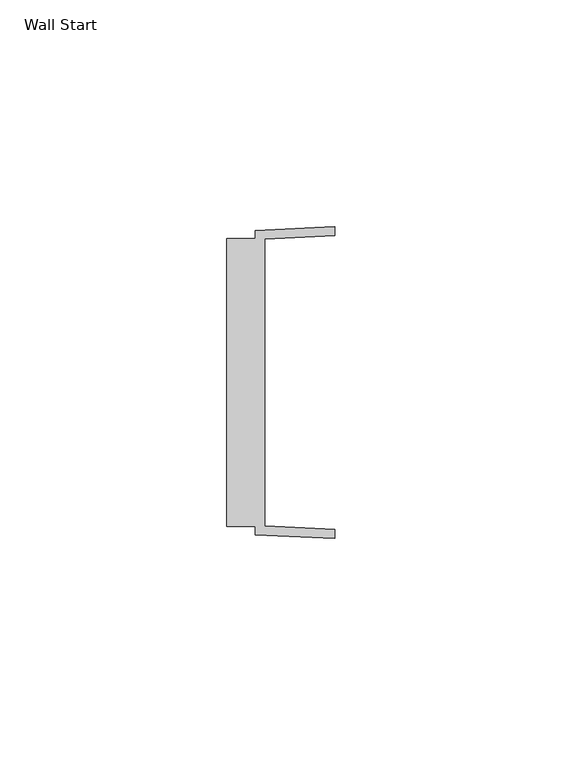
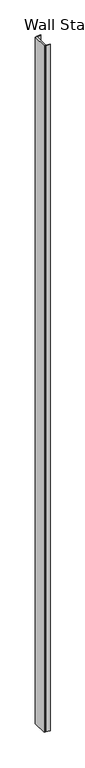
"""IFC4 building model written with IfcOpenShell, lengths in millimetres: proxy geometry, Connection-Wall_Start-Teknion-Altos-FKW : Wall Start."""

from ifc_helpers import new_model, si_unit, origin, origin_with_axes, place, context, project, spatial, polyline, outline, extrude, source, transform, mapped, element, save


def wall_start_b15cfce1(model_context):
    return source(origin(), model_context, "Body", "SweptSolid", [
        extrude(outline(polyline([(23.876, 32.4028183), (8.382, 31.6408192), (8.382, -31.6408192), (23.876, -32.4028183), (23.876, -34.4372679), (6.35, -33.575334), (6.35, -31.75), (0.0, -31.75), (0.0, 31.75), (6.35, 31.75), (6.35, 33.5753339), (23.876, 34.4372679), (23.876, 32.4028183)])), origin_with_axes(), (0.0, 0.0, 1.0), 3048.0),
    ])


if __name__ == "__main__":
    model = new_model("IFC4")
    model_context = context("Model", 3, world=origin())
    ifc_project = project(units=[si_unit("LENGTHUNIT", "METRE", prefix="MILLI")], contexts=[model_context])
    site = spatial("IfcSite", under=ifc_project)
    building = spatial("IfcBuilding", under=site)
    placement = place(None, origin())
    wall_start_shape = wall_start_b15cfce1(model_context)
    element("IfcBuildingElementProxy", 1, Name="Connection-Wall_Start-Teknion-Altos-FKW : Wall Start", ObjectType="Connection-Wall_Start-Teknion-Altos-FKW : Wall Start", at=placement, inside=building, context=model_context, shape_type="MappedRepresentation", body=[
        mapped(wall_start_shape, transform((0.0, 0.0, 0.0), x_axis=(1.0, 0.0, 0.0), y_axis=(0.0, 1.0, 0.0), z_axis=(0.0, 0.0, 1.0))),
    ])
    save(model, "model.ifc")
